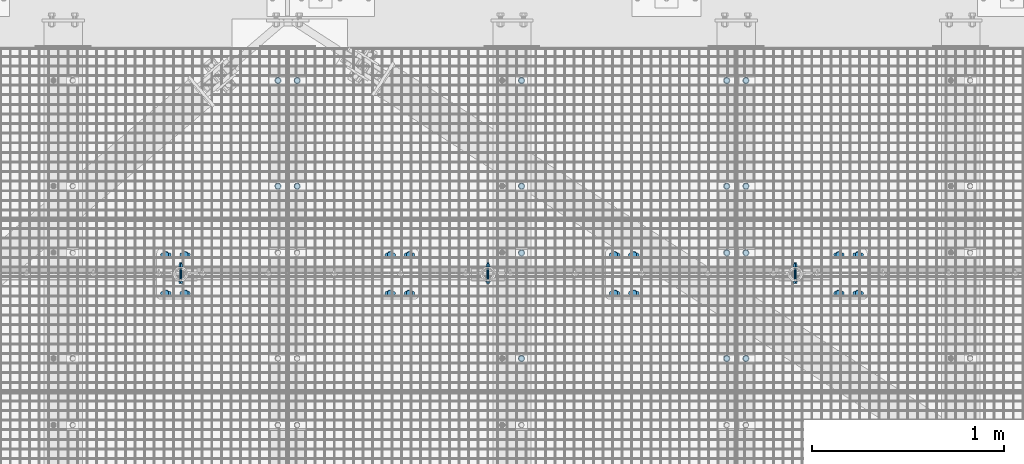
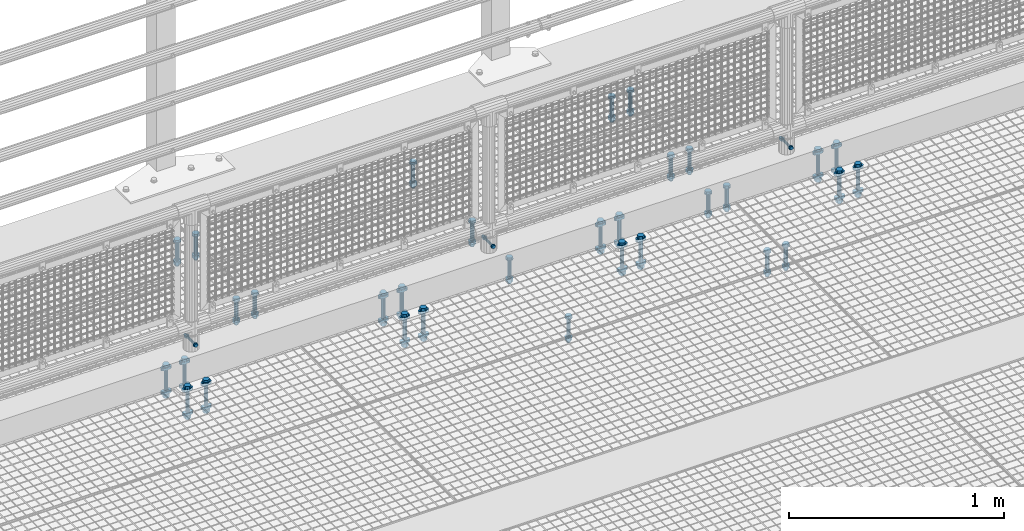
# One storey, part 41 of 1530: 15 mechanical fasteners.
"""IFC2X3 building model written with IfcOpenShell, lengths in millimetres."""

from ifc_helpers import new_model, si_unit, frame, origin_with_axes, place, context, subcontext, project, spatial, faceted_brep, source, transform, mapped, material, type_object, element, save


model = new_model("IFC2X3")

# Units and contexts
model_context = context("Model", 3, precision=1e-05, world=origin_with_axes())
body_context = subcontext(model_context, "Body", "Model", "MODEL_VIEW")
ifc_project = project(units=[si_unit("LENGTHUNIT", "METRE", prefix="MILLI"), si_unit("AREAUNIT", "SQUARE_METRE"), si_unit("VOLUMEUNIT", "CUBIC_METRE"), si_unit("MASSUNIT", "GRAM", prefix="KILO"), si_unit("TIMEUNIT", "SECOND"), si_unit("PLANEANGLEUNIT", "RADIAN"), si_unit("SOLIDANGLEUNIT", "STERADIAN"), si_unit("THERMODYNAMICTEMPERATUREUNIT", "DEGREE_CELSIUS"), si_unit("LUMINOUSINTENSITYUNIT", "LUMEN")], contexts=[model_context])

# Site, building, storey
site_placement = place(None, origin_with_axes())
site = spatial("IfcSite", under=ifc_project, at=site_placement, Name="Brattvåg", CompositionType="ELEMENT")
building_placement = place(site_placement, origin_with_axes())
building = spatial("IfcBuilding", under=site, at=building_placement, Name="Undefined", CompositionType="ELEMENT")
storey_placement = place(building_placement, origin_with_axes())
storey = spatial("IfcBuildingStorey", under=building, at=storey_placement, Name="Undefined", CompositionType="ELEMENT", Elevation=0.0)

# Mechanical fasteners
ifc_material = material(Name="8")
mechanical_fastener_type = type_object("IfcMechanicalFastenerType", Name="Bolt assembly")
shared_shape_1 = source(origin_with_axes(), body_context, "Body", "Brep", [
    faceted_brep([(17.3205080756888, -10.5, 0.0), (8.66025403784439, -10.5, 15.0), (-8.66025403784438, -10.5, 15.0), (-17.3205080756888, -10.5, 2.12115047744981e-15), (-8.66025403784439, -10.5, -15.0), (8.66025403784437, -10.5, -15.0), (8.66025403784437, 2.0, -15.0), (-8.66025403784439, 2.0, -15.0), (-17.3205080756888, 2.0, 2.12115047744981e-15), (-8.66025403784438, 2.0, 15.0), (8.66025403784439, 2.0, 15.0), (17.3205080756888, 2.0, 0.0), (10.0, 2.0, 0.0), (8.66025403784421, 2.0, 5.0000000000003), (4.9999999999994, 2.0, 8.66025403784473), (-1.03633598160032e-12, 2.0, 10.0), (-5.00000000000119, 2.0, 8.6602540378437), (-8.66025403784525, 2.0, 4.99999999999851), (-10.0, 2.0, -2.07267196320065e-12), (-8.66025403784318, 2.0, -5.00000000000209), (-4.99999999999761, 2.0, -8.66025403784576), (3.09790571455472e-12, 2.0, -10.0), (5.00000000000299, 2.0, -8.66025403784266), (8.66025403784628, 2.0, -4.99999999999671), (8.66025403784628, 142.0, -4.99999999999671), (5.00000000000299, 142.0, -8.66025403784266), (3.09790571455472e-12, 142.0, -10.0), (-4.99999999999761, 142.0, -8.66025403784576), (-8.66025403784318, 142.0, -5.00000000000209), (-10.0, 142.0, -2.07267196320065e-12), (-8.66025403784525, 142.0, 4.99999999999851), (-5.00000000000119, 142.0, 8.6602540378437), (-1.03633598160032e-12, 142.0, 10.0), (4.9999999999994, 142.0, 8.66025403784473), (8.66025403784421, 142.0, 5.0000000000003), (10.0, 142.0, 0.0), (18.5, 2.0, 0.0), (16.0214699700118, 2.0, 9.25000000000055), (9.2499999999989, 2.0, 16.0214699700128), (-1.9172215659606e-12, 2.0, 18.5), (-9.25000000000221, 2.0, 16.0214699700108), (-16.0214699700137, 2.0, 9.24999999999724), (-18.5, 2.0, -3.83444313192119e-12), (-16.0214699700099, 2.0, -9.25000000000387), (-9.24999999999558, 2.0, -16.0214699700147), (5.73112557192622e-12, 2.0, -18.5), (9.25000000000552, 2.0, -16.0214699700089), (16.0214699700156, 2.0, -9.24999999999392), (16.0214699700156, 5.0, -9.24999999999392), (9.25000000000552, 5.0, -16.0214699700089), (5.73112557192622e-12, 5.0, -18.5), (-9.24999999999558, 5.0, -16.0214699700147), (-16.0214699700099, 5.0, -9.25000000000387), (-18.5, 5.0, -3.83444313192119e-12), (-16.0214699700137, 5.0, 9.24999999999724), (-9.25000000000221, 5.0, 16.0214699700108), (-1.9172215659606e-12, 5.0, 18.5), (9.2499999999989, 5.0, 16.0214699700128), (16.0214699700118, 5.0, 9.25000000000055), (18.5, 5.0, 0.0), (18.5, 109.998931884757, 0.0), (16.0214699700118, 109.998931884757, 9.25000000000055), (9.2499999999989, 109.998931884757, 16.0214699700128), (-1.9172215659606e-12, 109.998931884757, 18.5), (-9.25000000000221, 109.998931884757, 16.0214699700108), (-16.0214699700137, 109.998931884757, 9.24999999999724), (-18.5, 109.998931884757, -3.83444313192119e-12), (-16.0214699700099, 109.998931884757, -9.25000000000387), (-9.24999999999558, 109.998931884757, -16.0214699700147), (5.73112557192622e-12, 109.998931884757, -18.5), (9.25000000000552, 109.998931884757, -16.0214699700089), (16.0214699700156, 109.998931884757, -9.24999999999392), (16.0214699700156, 112.998931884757, -9.24999999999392), (9.25000000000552, 112.998931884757, -16.0214699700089), (5.73112557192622e-12, 112.998931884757, -18.5), (-9.24999999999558, 112.998931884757, -16.0214699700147), (-16.0214699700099, 112.998931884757, -9.25000000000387), (-18.5, 112.998931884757, -3.83444313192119e-12), (-16.0214699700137, 112.998931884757, 9.24999999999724), (-9.25000000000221, 112.998931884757, 16.0214699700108), (-1.9172215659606e-12, 112.998931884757, 18.5), (9.2499999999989, 112.998931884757, 16.0214699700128), (16.0214699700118, 112.998931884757, 9.25000000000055), (18.5, 112.998931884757, 0.0), (17.3205080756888, 112.998931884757, 0.0), (8.66025403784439, 112.998931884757, 15.0), (-8.66025403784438, 112.998931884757, 15.0), (-17.3205080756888, 112.998931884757, 2.12115047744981e-15), (-8.66025403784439, 112.998931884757, -15.0), (8.66025403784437, 112.998931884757, -15.0), (8.66025403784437, 130.998931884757, -15.0), (-8.66025403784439, 130.998931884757, -15.0), (-17.3205080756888, 130.998931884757, 2.12115047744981e-15), (-8.66025403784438, 130.998931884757, 15.0), (8.66025403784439, 130.998931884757, 15.0), (17.3205080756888, 130.998931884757, 0.0)], [[[0, 1, 2, 3, 4, 5]], [[6, 7, 8, 9, 10, 11]], [[0, 11, 10, 1]], [[1, 10, 9, 2]], [[2, 9, 8, 3]], [[3, 8, 7, 4]], [[4, 7, 6, 5]], [[5, 6, 11, 0]], [[12, 13, 14, 15, 16, 17, 18, 19, 20, 21, 22, 23]], [[24, 25, 26, 27, 28, 29, 30, 31, 32, 33, 34, 35]], [[12, 35, 34, 13]], [[13, 34, 33, 14]], [[14, 33, 32, 15]], [[15, 32, 31, 16]], [[16, 31, 30, 17]], [[17, 30, 29, 18]], [[18, 29, 28, 19]], [[19, 28, 27, 20]], [[20, 27, 26, 21]], [[21, 26, 25, 22]], [[22, 25, 24, 23]], [[23, 24, 35, 12]], [[36, 37, 38, 39, 40, 41, 42, 43, 44, 45, 46, 47]], [[48, 49, 50, 51, 52, 53, 54, 55, 56, 57, 58, 59]], [[36, 59, 58, 37]], [[37, 58, 57, 38]], [[38, 57, 56, 39]], [[39, 56, 55, 40]], [[40, 55, 54, 41]], [[41, 54, 53, 42]], [[42, 53, 52, 43]], [[43, 52, 51, 44]], [[44, 51, 50, 45]], [[45, 50, 49, 46]], [[46, 49, 48, 47]], [[47, 48, 59, 36]], [[60, 61, 62, 63, 64, 65, 66, 67, 68, 69, 70, 71]], [[72, 73, 74, 75, 76, 77, 78, 79, 80, 81, 82, 83]], [[60, 83, 82, 61]], [[61, 82, 81, 62]], [[62, 81, 80, 63]], [[63, 80, 79, 64]], [[64, 79, 78, 65]], [[65, 78, 77, 66]], [[66, 77, 76, 67]], [[67, 76, 75, 68]], [[68, 75, 74, 69]], [[69, 74, 73, 70]], [[70, 73, 72, 71]], [[71, 72, 83, 60]], [[84, 85, 86, 87, 88, 89]], [[90, 91, 92, 93, 94, 95]], [[84, 95, 94, 85]], [[85, 94, 93, 86]], [[86, 93, 92, 87]], [[87, 92, 91, 88]], [[88, 91, 90, 89]], [[89, 90, 95, 84]]]),
])
for number, where, z_axis, x_axis, name in (
    (1, (9964.00477935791, 8121.91931152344, -25.0), (-1.0, 1.99999855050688e-09, 0.0), (0.0, 1.0, 0.0), "Bolt assembly"),
    (2, (9864.01487731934, 8121.9204864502, -25.0), (-1.0, 1.99999855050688e-09, 0.0), (0.0, 1.0, 0.0), "Bolt assembly"),
    (3, (8796.01192543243, 8121.99, -25.0), (-1.0, 1.99999855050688e-09, 0.0), (0.0, 1.0, 0.0), "Bolt assembly"),
    (4, (7628.00477935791, 8121.91931152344, -25.0), (-1.0, 1.99999855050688e-09, 0.0), (0.0, 1.0, 0.0), "Bolt assembly"),
    (5, (7528.01487731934, 8121.9204864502, -25.0), (-1.0, 1.99999855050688e-09, 0.0), (0.0, 1.0, 0.0), "Bolt assembly"),
    (6, (9964.00477935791, 7224.91931152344, -25.0), (-1.0, 1.99999855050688e-09, 0.0), (0.0, 1.0, 0.0), "Bolt assembly"),
    (7, (9864.01487731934, 7224.9204864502, -25.0), (-1.0, 1.99999855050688e-09, 0.0), (0.0, 1.0, 0.0), "Bolt assembly"),
    (8, (8796.01192543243, 7224.99, -25.0), (-1.0, 1.99999855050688e-09, 0.0), (0.0, 1.0, 0.0), "Bolt assembly"),
):
    element("IfcMechanicalFastener", number, at=place(storey_placement, frame(where, z_axis=z_axis, x_axis=x_axis)), inside=storey, type_object=mechanical_fastener_type, material=ifc_material, Name=name, NominalDiameter=20.0, NominalLength=140.0, context=body_context, shape_type="MappedRepresentation", body=[
        mapped(shared_shape_1, transform((0.0, 0.0, 0.0))),
        mapped(shared_shape_1, transform((549.999999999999, 0.0, 0.0))),
    ])
shared_shape_2 = source(origin_with_axes(), body_context, "Body", "Brep", [
    faceted_brep([(17.3205080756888, -15.5000000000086, 0.0), (8.66025403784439, -15.5000000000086, 15.0), (-8.66025403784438, -15.5000000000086, 15.0), (-17.3205080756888, -15.5000000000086, 2.12115047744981e-15), (-8.66025403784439, -15.5000000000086, -15.0), (8.66025403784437, -15.5000000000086, -15.0), (8.66025403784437, -3.00000000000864, -15.0), (-8.66025403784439, -3.00000000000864, -15.0), (-17.3205080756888, -3.00000000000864, 2.12115047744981e-15), (-8.66025403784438, -3.00000000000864, 15.0), (8.66025403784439, -3.00000000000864, 15.0), (17.3205080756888, -3.00000000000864, 0.0), (10.0, -3.00000000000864, 0.0), (8.66025403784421, -3.00000000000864, 5.0000000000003), (4.9999999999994, -3.00000000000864, 8.66025403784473), (-1.03633598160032e-12, -3.00000000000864, 10.0), (-5.00000000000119, -3.00000000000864, 8.6602540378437), (-8.66025403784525, -3.00000000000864, 4.99999999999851), (-10.0, -3.00000000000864, -2.07267196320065e-12), (-8.66025403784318, -3.00000000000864, -5.00000000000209), (-4.99999999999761, -3.00000000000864, -8.66025403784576), (3.09790571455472e-12, -3.00000000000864, -10.0), (5.00000000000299, -3.00000000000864, -8.66025403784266), (8.66025403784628, -3.00000000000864, -4.99999999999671), (8.66025403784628, 176.999999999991, -4.99999999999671), (5.00000000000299, 176.999999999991, -8.66025403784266), (3.09790571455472e-12, 176.999999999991, -10.0), (-4.99999999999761, 176.999999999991, -8.66025403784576), (-8.66025403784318, 176.999999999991, -5.00000000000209), (-10.0, 176.999999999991, -2.07267196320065e-12), (-8.66025403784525, 176.999999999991, 4.99999999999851), (-5.00000000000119, 176.999999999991, 8.6602540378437), (-1.03633598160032e-12, 176.999999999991, 10.0), (4.9999999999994, 176.999999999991, 8.66025403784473), (8.66025403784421, 176.999999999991, 5.0000000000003), (10.0, 176.999999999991, 0.0), (18.5, -3.00000000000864, 0.0), (16.0214699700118, -3.00000000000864, 9.25000000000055), (9.2499999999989, -3.00000000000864, 16.0214699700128), (-1.9172215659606e-12, -3.00000000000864, 18.5), (-9.25000000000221, -3.00000000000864, 16.0214699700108), (-16.0214699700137, -3.00000000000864, 9.24999999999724), (-18.5, -3.00000000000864, -3.83444313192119e-12), (-16.0214699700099, -3.00000000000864, -9.25000000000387), (-9.24999999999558, -3.00000000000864, -16.0214699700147), (5.73112557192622e-12, -3.00000000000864, -18.5), (9.25000000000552, -3.00000000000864, -16.0214699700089), (16.0214699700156, -3.00000000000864, -9.24999999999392), (16.0214699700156, -8.64019966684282e-12, -9.24999999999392), (9.25000000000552, -8.64019966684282e-12, -16.0214699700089), (5.73112557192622e-12, -8.64019966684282e-12, -18.5), (-9.24999999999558, -8.64019966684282e-12, -16.0214699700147), (-16.0214699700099, -8.64019966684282e-12, -9.25000000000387), (-18.5, -8.64019966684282e-12, -3.83444313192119e-12), (-16.0214699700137, -8.64019966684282e-12, 9.24999999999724), (-9.25000000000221, -8.64019966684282e-12, 16.0214699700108), (-1.9172215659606e-12, -8.64019966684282e-12, 18.5), (9.2499999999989, -8.64019966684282e-12, 16.0214699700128), (16.0214699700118, -8.64019966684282e-12, 9.25000000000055), (18.5, -8.64019966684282e-12, 0.0), (18.5, 149.999999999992, 0.0), (16.0214699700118, 149.999999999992, 9.25000000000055), (9.2499999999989, 149.999999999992, 16.0214699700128), (-1.9172215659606e-12, 149.999999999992, 18.5), (-9.25000000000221, 149.999999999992, 16.0214699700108), (-16.0214699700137, 149.999999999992, 9.24999999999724), (-18.5, 149.999999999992, -3.83444313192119e-12), (-16.0214699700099, 149.999999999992, -9.25000000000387), (-9.24999999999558, 149.999999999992, -16.0214699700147), (5.73112557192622e-12, 149.999999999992, -18.5), (9.25000000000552, 149.999999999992, -16.0214699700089), (16.0214699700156, 149.999999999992, -9.24999999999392), (16.0214699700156, 152.999999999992, -9.24999999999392), (9.25000000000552, 152.999999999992, -16.0214699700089), (5.73112557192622e-12, 152.999999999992, -18.5), (-9.24999999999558, 152.999999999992, -16.0214699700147), (-16.0214699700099, 152.999999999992, -9.25000000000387), (-18.5, 152.999999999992, -3.83444313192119e-12), (-16.0214699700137, 152.999999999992, 9.24999999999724), (-9.25000000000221, 152.999999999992, 16.0214699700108), (-1.9172215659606e-12, 152.999999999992, 18.5), (9.2499999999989, 152.999999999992, 16.0214699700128), (16.0214699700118, 152.999999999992, 9.25000000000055), (18.5, 152.999999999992, 0.0), (17.3205080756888, 152.999999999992, 0.0), (8.66025403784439, 152.999999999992, 15.0), (-8.66025403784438, 152.999999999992, 15.0), (-17.3205080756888, 152.999999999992, 2.12115047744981e-15), (-8.66025403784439, 152.999999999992, -15.0), (8.66025403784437, 152.999999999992, -15.0), (8.66025403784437, 170.999999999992, -15.0), (-8.66025403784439, 170.999999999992, -15.0), (-17.3205080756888, 170.999999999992, 2.12115047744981e-15), (-8.66025403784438, 170.999999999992, 15.0), (8.66025403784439, 170.999999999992, 15.0), (17.3205080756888, 170.999999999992, 0.0)], [[[0, 1, 2, 3, 4, 5]], [[6, 7, 8, 9, 10, 11]], [[0, 11, 10, 1]], [[1, 10, 9, 2]], [[2, 9, 8, 3]], [[3, 8, 7, 4]], [[4, 7, 6, 5]], [[5, 6, 11, 0]], [[12, 13, 14, 15, 16, 17, 18, 19, 20, 21, 22, 23]], [[24, 25, 26, 27, 28, 29, 30, 31, 32, 33, 34, 35]], [[12, 35, 34, 13]], [[13, 34, 33, 14]], [[14, 33, 32, 15]], [[15, 32, 31, 16]], [[16, 31, 30, 17]], [[17, 30, 29, 18]], [[18, 29, 28, 19]], [[19, 28, 27, 20]], [[20, 27, 26, 21]], [[21, 26, 25, 22]], [[22, 25, 24, 23]], [[23, 24, 35, 12]], [[36, 37, 38, 39, 40, 41, 42, 43, 44, 45, 46, 47]], [[48, 49, 50, 51, 52, 53, 54, 55, 56, 57, 58, 59]], [[36, 59, 58, 37]], [[37, 58, 57, 38]], [[38, 57, 56, 39]], [[39, 56, 55, 40]], [[40, 55, 54, 41]], [[41, 54, 53, 42]], [[42, 53, 52, 43]], [[43, 52, 51, 44]], [[44, 51, 50, 45]], [[45, 50, 49, 46]], [[46, 49, 48, 47]], [[47, 48, 59, 36]], [[60, 61, 62, 63, 64, 65, 66, 67, 68, 69, 70, 71]], [[72, 73, 74, 75, 76, 77, 78, 79, 80, 81, 82, 83]], [[60, 83, 82, 61]], [[61, 82, 81, 62]], [[62, 81, 80, 63]], [[63, 80, 79, 64]], [[64, 79, 78, 65]], [[65, 78, 77, 66]], [[66, 77, 76, 67]], [[67, 76, 75, 68]], [[68, 75, 74, 69]], [[69, 74, 73, 70]], [[70, 73, 72, 71]], [[71, 72, 83, 60]], [[84, 85, 86, 87, 88, 89]], [[90, 91, 92, 93, 94, 95]], [[84, 95, 94, 85]], [[85, 94, 93, 86]], [[86, 93, 92, 87]], [[87, 92, 91, 88]], [[88, 91, 90, 89]], [[89, 90, 95, 84]]]),
    faceted_brep([(11.0, 0.0999999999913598, 16.5), (10.162674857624, 0.0999999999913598, 20.7095177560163), (7.77817459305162, 0.0999999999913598, 24.2781745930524), (-1.13996957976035e-12, 0.0999999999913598, 27.5), (-5.50000000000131, 0.0999999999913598, 26.0262794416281), (-9.52627944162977, 0.0999999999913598, 21.9999999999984), (-11.0, 0.0999999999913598, 16.4999999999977), (-11.0, 0.0999999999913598, -16.5000000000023), (-9.5262794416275, 0.0999999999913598, -22.0000000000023), (-5.49999999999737, 0.0999999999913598, -26.0262794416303), (3.40769628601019e-12, 0.0999999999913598, -27.5), (5.50000000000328, 0.0999999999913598, -26.0262794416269), (9.52627944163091, 0.0999999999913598, -21.9999999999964), (11.0, 0.0999999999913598, -16.4999999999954), (11.0, 15.0999999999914, -16.4999999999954), (9.52627944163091, 15.0999999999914, -21.9999999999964), (5.50000000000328, 15.0999999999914, -26.0262794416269), (3.40769628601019e-12, 15.0999999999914, -27.5), (-5.49999999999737, 15.0999999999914, -26.0262794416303), (-9.5262794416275, 15.0999999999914, -22.0000000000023), (-11.0, 15.0999999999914, -16.5000000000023), (-11.0, 15.0999999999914, 16.4999999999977), (-9.52627944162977, 15.0999999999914, 21.9999999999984), (-5.50000000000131, 15.0999999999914, 26.0262794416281), (-1.13996957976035e-12, 15.0999999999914, 27.5), (4.2095177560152, 15.0999999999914, 26.6626748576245), (7.77817459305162, 15.0999999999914, 24.2781745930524), (10.162674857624, 15.0999999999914, 20.7095177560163), (11.0, 15.0999999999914, 16.5), (4.2095177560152, 0.0999999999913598, 26.6626748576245), (11.0, 134.899999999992, 16.5), (10.162674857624, 134.899999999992, 20.7095177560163), (7.77817459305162, 134.899999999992, 24.2781745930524), (-1.13996957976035e-12, 134.899999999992, 27.5), (-5.50000000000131, 134.899999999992, 26.0262794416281), (-9.52627944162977, 134.899999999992, 21.9999999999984), (-11.0, 134.899999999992, 16.4999999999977), (-11.0, 134.899999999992, -16.5000000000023), (-9.5262794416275, 134.899999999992, -22.0000000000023), (-5.49999999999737, 134.899999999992, -26.0262794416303), (3.40769628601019e-12, 134.899999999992, -27.5), (5.50000000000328, 134.899999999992, -26.0262794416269), (9.52627944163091, 134.899999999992, -21.9999999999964), (11.0, 134.899999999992, -16.4999999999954), (11.0, 149.999999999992, -16.4999999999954), (9.52627944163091, 149.999999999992, -21.9999999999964), (5.50000000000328, 149.999999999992, -26.0262794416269), (3.40769628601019e-12, 149.999999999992, -27.5), (-5.49999999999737, 149.999999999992, -26.0262794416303), (-9.5262794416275, 149.999999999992, -22.0000000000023), (-11.0, 149.999999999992, -16.5000000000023), (-11.0, 149.999999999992, 16.4999999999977), (-9.52627944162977, 149.999999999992, 21.9999999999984), (-5.50000000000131, 149.999999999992, 26.0262794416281), (-1.13996957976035e-12, 149.999999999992, 27.5), (4.2095177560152, 149.999999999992, 26.6626748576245), (7.77817459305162, 149.999999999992, 24.2781745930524), (10.162674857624, 149.999999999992, 20.7095177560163), (11.0, 149.999999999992, 16.5), (4.2095177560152, 134.899999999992, 26.6626748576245)], [[[0, 1, 2, 3, 4, 5, 6, 7, 8, 9, 10, 11, 12, 13]], [[14, 15, 16, 17, 18, 19, 20, 21, 22, 23, 24, 25, 26, 27, 28]], [[0, 28, 27, 1]], [[1, 27, 26, 2]], [[2, 26, 25, 29]], [[29, 25, 24, 3]], [[3, 24, 23, 4]], [[4, 23, 22, 5]], [[5, 22, 21, 6]], [[6, 21, 20, 7]], [[7, 20, 19, 8]], [[8, 19, 18, 9]], [[9, 18, 17, 10]], [[10, 17, 16, 11]], [[11, 16, 15, 12]], [[12, 15, 14, 13]], [[13, 14, 28, 0]], [[30, 31, 32, 33, 34, 35, 36, 37, 38, 39, 40, 41, 42, 43]], [[44, 45, 46, 47, 48, 49, 50, 51, 52, 53, 54, 55, 56, 57, 58]], [[30, 58, 57, 31]], [[31, 57, 56, 32]], [[32, 56, 55, 59]], [[59, 55, 54, 33]], [[33, 54, 53, 34]], [[34, 53, 52, 35]], [[35, 52, 51, 36]], [[36, 51, 50, 37]], [[37, 50, 49, 38]], [[38, 49, 48, 39]], [[39, 48, 47, 40]], [[40, 47, 46, 41]], [[41, 46, 45, 42]], [[42, 45, 44, 43]], [[43, 44, 58, 30]]]),
])
for number, where, z_axis, x_axis, name in (
    (9, (6993.99967956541, 7564.49943923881, 15.0000839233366), (-1.0, 1.99999855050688e-09, 0.0), (0.0, 1.0, 0.0), "Bolt assembly"),
    (10, (8161.99967956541, 7564.4994392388, 15.0000839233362), (-1.0, 1.99999855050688e-09, 0.0), (0.0, 1.0, 0.0), "Bolt assembly"),
    (11, (9329.99967956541, 7564.4994392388, 15.0000839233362), (-1.0, 1.99999855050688e-09, 0.0), (0.0, 1.0, 0.0), "Bolt assembly"),
    (12, (10497.9996795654, 7564.4994392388, 15.0000839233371), (-1.0, 1.99999855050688e-09, 0.0), (0.0, 1.0, 0.0), "Bolt assembly"),
):
    element("IfcMechanicalFastener", number, at=place(storey_placement, frame(where, z_axis=z_axis, x_axis=x_axis)), inside=storey, type_object=mechanical_fastener_type, material=ifc_material, Name=name, NominalDiameter=20.0, NominalLength=180.0, context=body_context, shape_type="MappedRepresentation", body=[
        mapped(shared_shape_2, transform((0.0, 0.0, -50.0))),
        mapped(shared_shape_2, transform((200.0, 0.0, -50.0))),
        mapped(shared_shape_2, transform((0.0, 0.0, 50.0))),
        mapped(shared_shape_2, transform((200.0, 0.0, 50.0))),
    ])
shared_shape_3 = source(origin_with_axes(), body_context, "Body", "Brep", [
    faceted_brep([(10.3923048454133, -9.99524588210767, 0.0), (5.19615242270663, -9.99524588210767, 9.0), (-5.19615242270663, -9.99524588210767, 9.0), (-10.3923048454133, -9.99524588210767, 1.27269028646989e-15), (-5.19615242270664, -9.99524588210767, -9.0), (5.19615242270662, -9.99524588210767, -9.0), (5.19615242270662, -2.49524588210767, -9.0), (-5.19615242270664, -2.49524588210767, -9.0), (-10.3923048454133, -2.49524588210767, 1.27269028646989e-15), (-5.19615242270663, -2.49524588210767, 9.0), (5.19615242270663, -2.49524588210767, 9.0), (10.3923048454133, -2.49524588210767, 0.0), (6.0, -2.49524588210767, 0.0), (5.19615242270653, -2.49524588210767, 3.00000000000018), (2.99999999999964, -2.49524588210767, 5.19615242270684), (-6.21801588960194e-13, -2.49524588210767, 6.0), (-3.00000000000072, -2.49524588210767, 5.19615242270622), (-5.19615242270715, -2.49524588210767, 2.9999999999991), (-6.0, -2.49524588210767, -1.24360317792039e-12), (-5.19615242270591, -2.49524588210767, -3.00000000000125), (-2.99999999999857, -2.49524588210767, -5.19615242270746), (1.85874342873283e-12, -2.49524588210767, -6.0), (3.00000000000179, -2.49524588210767, -5.1961524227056), (5.19615242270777, -2.49524588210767, -2.99999999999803), (5.19615242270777, 97.5047541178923, -2.99999999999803), (3.00000000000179, 97.5047541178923, -5.1961524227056), (1.85874342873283e-12, 97.5047541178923, -6.0), (-2.99999999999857, 97.5047541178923, -5.19615242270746), (-5.19615242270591, 97.5047541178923, -3.00000000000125), (-6.0, 97.5047541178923, -1.24360317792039e-12), (-5.19615242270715, 97.5047541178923, 2.9999999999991), (-3.00000000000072, 97.5047541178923, 5.19615242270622), (-6.21801588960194e-13, 97.5047541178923, 6.0), (2.99999999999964, 97.5047541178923, 5.19615242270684), (5.19615242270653, 97.5047541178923, 3.00000000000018), (6.0, 97.5047541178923, 0.0), (12.0, -2.49524588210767, 0.0), (10.3923048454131, -2.49524588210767, 6.00000000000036), (5.99999999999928, -2.49524588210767, 10.3923048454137), (-1.24360317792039e-12, -2.49524588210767, 12.0), (-6.00000000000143, -2.49524588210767, 10.3923048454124), (-10.3923048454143, -2.49524588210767, 5.99999999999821), (-12.0, -2.49524588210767, -2.48720635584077e-12), (-10.3923048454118, -2.49524588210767, -6.00000000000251), (-5.99999999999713, -2.49524588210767, -10.3923048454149), (3.71748685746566e-12, -2.49524588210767, -12.0), (6.00000000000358, -2.49524588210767, -10.3923048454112), (10.3923048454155, -2.49524588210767, -5.99999999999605), (10.3923048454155, 0.00475411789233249, -5.99999999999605), (6.00000000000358, 0.00475411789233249, -10.3923048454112), (3.71748685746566e-12, 0.00475411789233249, -12.0), (-5.99999999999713, 0.00475411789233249, -10.3923048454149), (-10.3923048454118, 0.00475411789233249, -6.00000000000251), (-12.0, 0.00475411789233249, -2.48720635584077e-12), (-10.3923048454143, 0.00475411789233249, 5.99999999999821), (-6.00000000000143, 0.00475411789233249, 10.3923048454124), (-1.24360317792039e-12, 0.00475411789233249, 12.0), (5.99999999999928, 0.00475411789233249, 10.3923048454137), (10.3923048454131, 0.00475411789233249, 6.00000000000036), (12.0, 0.00475411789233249, 0.0), (12.0, 76.1029826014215, 0.0), (10.3923048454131, 76.1029826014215, 6.00000000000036), (5.99999999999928, 76.1029826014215, 10.3923048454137), (-1.24360317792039e-12, 76.1029826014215, 12.0), (-6.00000000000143, 76.1029826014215, 10.3923048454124), (-10.3923048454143, 76.1029826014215, 5.99999999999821), (-12.0, 76.1029826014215, -2.48720635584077e-12), (-10.3923048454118, 76.1029826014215, -6.00000000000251), (-5.99999999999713, 76.1029826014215, -10.3923048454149), (3.71748685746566e-12, 76.1029826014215, -12.0), (6.00000000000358, 76.1029826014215, -10.3923048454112), (10.3923048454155, 76.1029826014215, -5.99999999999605), (10.3923048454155, 78.6029826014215, -5.99999999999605), (6.00000000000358, 78.6029826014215, -10.3923048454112), (3.71748685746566e-12, 78.6029826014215, -12.0), (-5.99999999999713, 78.6029826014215, -10.3923048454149), (-10.3923048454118, 78.6029826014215, -6.00000000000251), (-12.0, 78.6029826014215, -2.48720635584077e-12), (-10.3923048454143, 78.6029826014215, 5.99999999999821), (-6.00000000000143, 78.6029826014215, 10.3923048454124), (-1.24360317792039e-12, 78.6029826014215, 12.0), (5.99999999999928, 78.6029826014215, 10.3923048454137), (10.3923048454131, 78.6029826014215, 6.00000000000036), (12.0, 78.6029826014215, 0.0), (10.3923048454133, 78.6029826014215, 0.0), (5.19615242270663, 78.6029826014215, 9.0), (-5.19615242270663, 78.6029826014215, 9.0), (-10.3923048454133, 78.6029826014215, 1.27269028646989e-15), (-5.19615242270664, 78.6029826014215, -9.0), (5.19615242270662, 78.6029826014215, -9.0), (5.19615242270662, 89.4029827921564, -9.0), (-5.19615242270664, 89.4029827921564, -9.0), (-10.3923048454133, 89.4029827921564, 1.27269028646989e-15), (-5.19615242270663, 89.4029827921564, 9.0), (5.19615242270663, 89.4029827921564, 9.0), (10.3923048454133, 89.4029827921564, 0.0)], [[[0, 1, 2, 3, 4, 5]], [[6, 7, 8, 9, 10, 11]], [[0, 11, 10, 1]], [[1, 10, 9, 2]], [[2, 9, 8, 3]], [[3, 8, 7, 4]], [[4, 7, 6, 5]], [[5, 6, 11, 0]], [[12, 13, 14, 15, 16, 17, 18, 19, 20, 21, 22, 23]], [[24, 25, 26, 27, 28, 29, 30, 31, 32, 33, 34, 35]], [[12, 35, 34, 13]], [[13, 34, 33, 14]], [[14, 33, 32, 15]], [[15, 32, 31, 16]], [[16, 31, 30, 17]], [[17, 30, 29, 18]], [[18, 29, 28, 19]], [[19, 28, 27, 20]], [[20, 27, 26, 21]], [[21, 26, 25, 22]], [[22, 25, 24, 23]], [[23, 24, 35, 12]], [[36, 37, 38, 39, 40, 41, 42, 43, 44, 45, 46, 47]], [[48, 49, 50, 51, 52, 53, 54, 55, 56, 57, 58, 59]], [[36, 59, 58, 37]], [[37, 58, 57, 38]], [[38, 57, 56, 39]], [[39, 56, 55, 40]], [[40, 55, 54, 41]], [[41, 54, 53, 42]], [[42, 53, 52, 43]], [[43, 52, 51, 44]], [[44, 51, 50, 45]], [[45, 50, 49, 46]], [[46, 49, 48, 47]], [[47, 48, 59, 36]], [[60, 61, 62, 63, 64, 65, 66, 67, 68, 69, 70, 71]], [[72, 73, 74, 75, 76, 77, 78, 79, 80, 81, 82, 83]], [[60, 83, 82, 61]], [[61, 82, 81, 62]], [[62, 81, 80, 63]], [[63, 80, 79, 64]], [[64, 79, 78, 65]], [[65, 78, 77, 66]], [[66, 77, 76, 67]], [[67, 76, 75, 68]], [[68, 75, 74, 69]], [[69, 74, 73, 70]], [[70, 73, 72, 71]], [[71, 72, 83, 60]], [[84, 85, 86, 87, 88, 89]], [[90, 91, 92, 93, 94, 95]], [[84, 95, 94, 85]], [[85, 94, 93, 86]], [[86, 93, 92, 87]], [[87, 92, 91, 88]], [[88, 91, 90, 89]], [[89, 90, 95, 84]]]),
    faceted_brep([(6.5, 0.104754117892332, 0.0), (5.62916512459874, 0.104754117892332, 3.25000000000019), (3.24999999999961, 0.104754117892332, 5.62916512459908), (-6.7361838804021e-13, 0.104754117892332, 6.5), (-3.25000000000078, 0.104754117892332, 5.6291651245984), (-5.62916512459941, 0.104754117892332, 3.24999999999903), (-6.5, 0.104754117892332, -1.34723677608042e-12), (-5.62916512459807, 0.104754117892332, -3.25000000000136), (-3.24999999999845, 0.104754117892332, -5.62916512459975), (2.01363871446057e-12, 0.104754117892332, -6.5), (3.25000000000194, 0.104754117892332, -5.62916512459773), (5.62916512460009, 0.104754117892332, -3.24999999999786), (5.62916512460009, 76.2029826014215, -3.24999999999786), (3.25000000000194, 76.2029826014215, -5.62916512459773), (2.01363871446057e-12, 76.2029826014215, -6.5), (-3.24999999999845, 76.2029826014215, -5.62916512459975), (-5.62916512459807, 76.2029826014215, -3.25000000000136), (-6.5, 76.2029826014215, -1.34723677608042e-12), (-5.62916512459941, 76.2029826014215, 3.24999999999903), (-3.25000000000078, 76.2029826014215, 5.6291651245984), (-6.7361838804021e-13, 76.2029826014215, 6.5), (3.24999999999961, 76.2029826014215, 5.62916512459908), (5.62916512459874, 76.2029826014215, 3.25000000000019), (6.5, 76.2029826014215, 0.0), (6.5, 7.80509808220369, 0.0), (5.62916512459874, 7.80509808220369, 3.25000000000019), (3.24999999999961, 7.80509808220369, 5.62916512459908), (-6.7361838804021e-13, 7.80509808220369, 6.5), (-3.25000000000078, 7.80509808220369, 5.6291651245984), (-5.62916512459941, 7.80509808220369, 3.24999999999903), (-6.5, 7.80509808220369, -1.34723677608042e-12), (-5.62916512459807, 7.80509808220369, -3.25000000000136), (-3.24999999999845, 7.80509808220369, -5.62916512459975), (2.01363871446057e-12, 7.80509808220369, -6.5), (3.25000000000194, 7.80509808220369, -5.62916512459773), (5.62916512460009, 7.80509808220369, -3.24999999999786), (5.62916512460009, 68.2033458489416, -3.24999999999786), (3.25000000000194, 68.2033458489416, -5.62916512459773), (2.01363871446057e-12, 68.2033458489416, -6.5), (-3.24999999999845, 68.2033458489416, -5.62916512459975), (-5.62916512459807, 68.2033458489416, -3.25000000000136), (-6.5, 68.2033458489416, -1.34723677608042e-12), (-5.62916512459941, 68.2033458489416, 3.24999999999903), (-3.25000000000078, 68.2033458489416, 5.6291651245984), (-6.7361838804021e-13, 68.2033458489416, 6.5), (3.24999999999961, 68.2033458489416, 5.62916512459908), (5.62916512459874, 68.2033458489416, 3.25000000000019), (6.5, 68.2033458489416, 0.0)], [[[0, 1, 2, 3, 4, 5, 6, 7, 8, 9, 10, 11]], [[12, 13, 14, 15, 16, 17, 18, 19, 20, 21, 22, 23]], [[0, 23, 22, 1]], [[1, 22, 21, 2]], [[2, 21, 20, 3]], [[3, 20, 19, 4]], [[4, 19, 18, 5]], [[5, 18, 17, 6]], [[6, 17, 16, 7]], [[7, 16, 15, 8]], [[8, 15, 14, 9]], [[9, 14, 13, 10]], [[10, 13, 12, 11]], [[11, 12, 23, 0]], [[24, 25, 26, 27, 28, 29, 30, 31, 32, 33, 34, 35]], [[36, 37, 38, 39, 40, 41, 42, 43, 44, 45, 46, 47]], [[24, 47, 46, 25]], [[25, 46, 45, 26]], [[26, 45, 44, 27]], [[27, 44, 43, 28]], [[28, 43, 42, 29]], [[29, 42, 41, 30]], [[30, 41, 40, 31]], [[31, 40, 39, 32]], [[32, 39, 38, 33]], [[33, 38, 37, 34]], [[34, 37, 36, 35]], [[35, 36, 47, 24]]]),
])
for number, where, z_axis, x_axis, name in (
    (13, (7020.99510448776, 7626.4447316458, 194.999988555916), (1.0, 0.0, 0.0), (0.0, 0.0, -1.0), "Bolt assembly"),
    (14, (8620.99510448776, 7626.4447316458, 194.999988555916), (1.0, 0.0, 0.0), (0.0, 0.0, -1.0), "Bolt assembly"),
    (15, (10220.9951044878, 7626.4447316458, 194.999988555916), (1.0, 0.0, 0.0), (0.0, 0.0, -1.0), "Bolt assembly"),
):
    element("IfcMechanicalFastener", number, at=place(storey_placement, frame(where, z_axis=z_axis, x_axis=x_axis)), inside=storey, type_object=mechanical_fastener_type, material=ifc_material, Name=name, NominalDiameter=12.0, NominalLength=100.0, context=body_context, shape_type="MappedRepresentation", body=[
        mapped(shared_shape_3, transform((0.0, 0.0, 0.0))),
    ])

save(model, "model.ifc")
